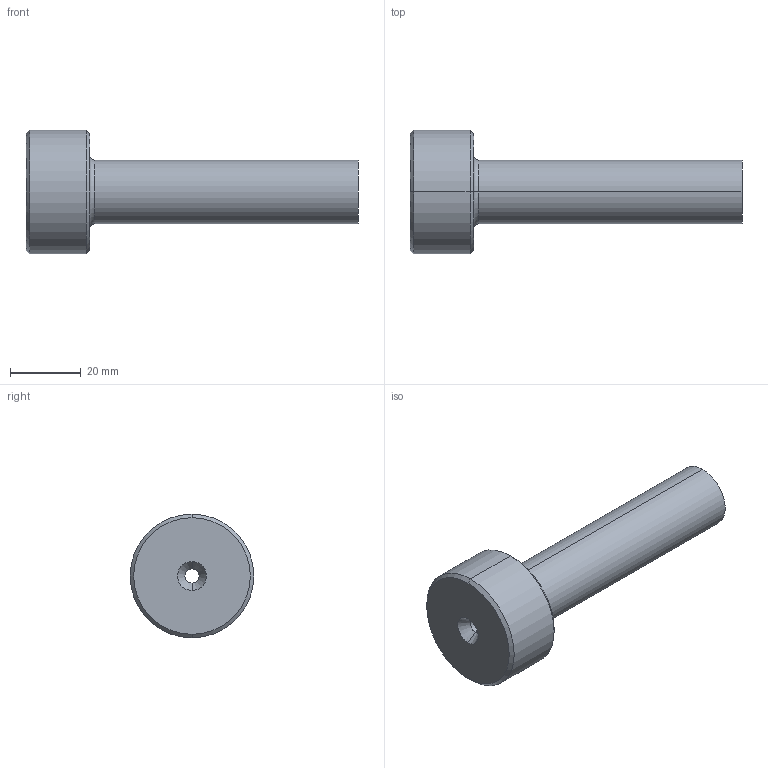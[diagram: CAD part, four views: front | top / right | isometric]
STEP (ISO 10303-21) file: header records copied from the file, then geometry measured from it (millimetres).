
FILE_DESCRIPTION (( 'STEP AP214' ), '1' );
FILE_NAME ('BRB7-076.STEP', '2020-01-29T09:58:02', ( 'August' ), ( '' ), 'SwSTEP 2.0', 'SolidWorks 2018', '' );
FILE_SCHEMA (( 'AUTOMOTIVE_DESIGN' ));
Length unit declared in the file: millimetre
Products named in the file (1): BRB7-076
Bounding box: 94 x 35 x 35 mm (x, y, z)
Volume: 34194.8 mm3; surface area: 9609.1 mm2
Topology: 1 solids, 1 shells, 17 faces, 34 edges, 20 vertices
Faces by surface type: cone 8, cylinder 4, plane 3, torus 2
Entity records: 484 total; most frequent: DIRECTION 92, CARTESIAN_POINT 72, ORIENTED_EDGE 68, AXIS2_PLACEMENT_3D 40, EDGE_CURVE 34, CIRCLE 22, VERTEX_POINT 20, EDGE_LOOP 20
